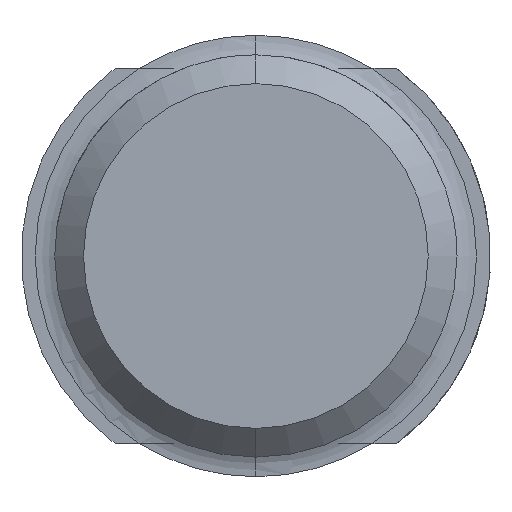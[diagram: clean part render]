
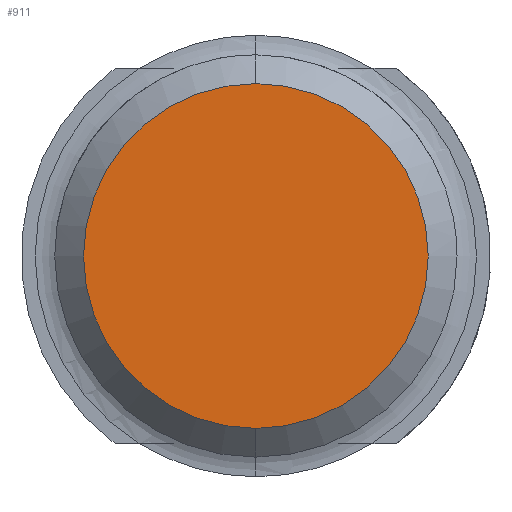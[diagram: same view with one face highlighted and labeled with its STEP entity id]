
A CAD part, left-side view. The second image highlights one B-rep face of the part: STEP entity #911.
In plain terms, the highlighted planar face has unit normal (-1, 0, 0).
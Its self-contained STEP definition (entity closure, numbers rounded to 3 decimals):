
#771=CARTESIAN_POINT('Vertex',(-35.,0.,12.853)) ;
#774=CARTESIAN_POINT('Axis2P3D Location',(-35.,0.,0.)) ;
#778=CARTESIAN_POINT('Vertex',(-35.,-12.853,0.)) ;
#781=CARTESIAN_POINT('Axis2P3D Location',(-35.,0.,0.)) ;
#785=CARTESIAN_POINT('Vertex',(-35.,0.,-12.853)) ;
#807=CARTESIAN_POINT('Axis2P3D Location',(-35.,0.,0.)) ;
#811=CARTESIAN_POINT('Vertex',(-35.,12.853,0.)) ;
#814=CARTESIAN_POINT('Axis2P3D Location',(-35.,0.,0.)) ;
#900=CARTESIAN_POINT('Axis2P3D Location',(-35.,0.,0.)) ;
#775=DIRECTION('Axis2P3D Direction',(1.,0.,-0.)) ;
#782=DIRECTION('Axis2P3D Direction',(1.,0.,-0.)) ;
#808=DIRECTION('Axis2P3D Direction',(1.,0.,-0.)) ;
#815=DIRECTION('Axis2P3D Direction',(1.,0.,-0.)) ;
#901=DIRECTION('Axis2P3D Direction',(1.,0.,-0.)) ;
#902=DIRECTION('Axis2P3D XDirection',(-0.,0.,-1.)) ;
#776=AXIS2_PLACEMENT_3D('Circle Axis2P3D',#774,#775,$) ;
#783=AXIS2_PLACEMENT_3D('Circle Axis2P3D',#781,#782,$) ;
#809=AXIS2_PLACEMENT_3D('Circle Axis2P3D',#807,#808,$) ;
#816=AXIS2_PLACEMENT_3D('Circle Axis2P3D',#814,#815,$) ;
#903=AXIS2_PLACEMENT_3D('Plane Axis2P3D',#900,#901,#902) ;
#906=ORIENTED_EDGE('',*,*,#813,.F.) ;
#907=ORIENTED_EDGE('',*,*,#787,.F.) ;
#908=ORIENTED_EDGE('',*,*,#780,.F.) ;
#909=ORIENTED_EDGE('',*,*,#818,.F.) ;
#911=ADVANCED_FACE('AGS3411M30',(#910),#904,.F.) ;
#777=CIRCLE('generated circle',#776,12.853) ;
#784=CIRCLE('generated circle',#783,12.853) ;
#810=CIRCLE('generated circle',#809,12.853) ;
#817=CIRCLE('generated circle',#816,12.853) ;
#780=EDGE_CURVE('',#772,#779,#777,.T.) ;
#787=EDGE_CURVE('',#779,#786,#784,.T.) ;
#813=EDGE_CURVE('',#786,#812,#810,.T.) ;
#818=EDGE_CURVE('',#812,#772,#817,.T.) ;
#905=EDGE_LOOP('',(#906,#907,#908,#909)) ;
#910=FACE_OUTER_BOUND('',#905,.T.) ;
#904=PLANE('Plane',#903) ;
#772=VERTEX_POINT('',#771) ;
#779=VERTEX_POINT('',#778) ;
#786=VERTEX_POINT('',#785) ;
#812=VERTEX_POINT('',#811) ;
